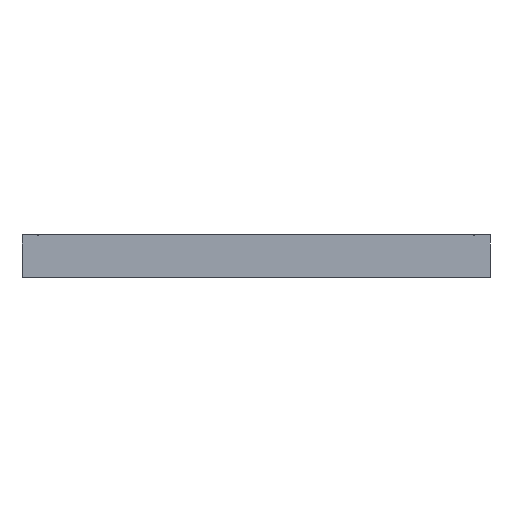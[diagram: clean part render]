
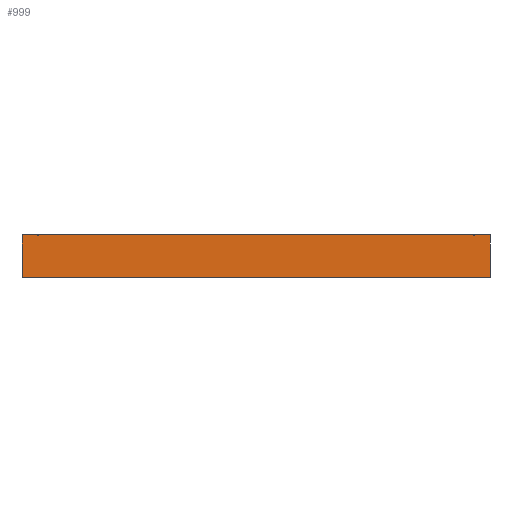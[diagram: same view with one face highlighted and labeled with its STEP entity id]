
A CAD part, top view. The second image highlights one B-rep face of the part: STEP entity #999.
In plain terms, the highlighted planar face has unit normal (0, 0, 1).
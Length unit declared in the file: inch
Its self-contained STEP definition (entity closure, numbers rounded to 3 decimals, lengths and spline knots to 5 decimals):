
#359=CARTESIAN_POINT('',(59.625,5.5,0.055));
#360=VERTEX_POINT('',#359);
#361=CARTESIAN_POINT('',(59.75,5.375,0.055));
#362=VERTEX_POINT('',#361);
#363=CARTESIAN_POINT('',(59.625,5.375,0.055));
#364=DIRECTION('',(0.0,0.0,-1.0));
#365=DIRECTION('',(0.707,0.707,0.0));
#366=AXIS2_PLACEMENT_3D('',#363,#364,#365);
#367=CIRCLE('',#366,0.125);
#368=EDGE_CURVE('',#360,#362,#367,.T.);
#410=CARTESIAN_POINT('',(-59.625,5.5,0.055));
#411=VERTEX_POINT('',#410);
#418=CARTESIAN_POINT('',(-59.625,5.5,0.055));
#419=DIRECTION('',(1.0,0.0,0.0));
#420=VECTOR('',#419,119.25);
#421=LINE('',#418,#420);
#422=EDGE_CURVE('',#411,#360,#421,.T.);
#495=CARTESIAN_POINT('',(-59.75,5.375,0.055));
#496=VERTEX_POINT('',#495);
#497=CARTESIAN_POINT('',(-59.625,5.375,0.055));
#498=DIRECTION('',(0.0,0.0,-1.0));
#499=DIRECTION('',(-0.707,0.707,0.0));
#500=AXIS2_PLACEMENT_3D('',#497,#498,#499);
#501=CIRCLE('',#500,0.125);
#502=EDGE_CURVE('',#496,#411,#501,.T.);
#522=CARTESIAN_POINT('',(-59.75,-5.414,0.055));
#523=VERTEX_POINT('',#522);
#530=CARTESIAN_POINT('',(-59.75,-5.414,0.055));
#531=DIRECTION('',(0.0,1.0,0.0));
#532=VECTOR('',#531,10.789);
#533=LINE('',#530,#532);
#534=EDGE_CURVE('',#523,#496,#533,.T.);
#775=CARTESIAN_POINT('',(-55.8385,5.25,0.055));
#776=VERTEX_POINT('',#775);
#777=CARTESIAN_POINT('',(-55.75,5.25,0.055));
#778=DIRECTION('',(0.0,0.0,-1.0));
#779=DIRECTION('',(1.0,0.0,0.0));
#780=AXIS2_PLACEMENT_3D('',#777,#778,#779);
#781=CIRCLE('',#780,0.0885);
#782=EDGE_CURVE('',#776,#776,#781,.T.);
#795=CARTESIAN_POINT('',(55.6615,5.25,0.055));
#796=VERTEX_POINT('',#795);
#797=CARTESIAN_POINT('',(55.75,5.25,0.055));
#798=DIRECTION('',(0.0,0.0,-1.0));
#799=DIRECTION('',(1.0,0.0,0.0));
#800=AXIS2_PLACEMENT_3D('',#797,#798,#799);
#801=CIRCLE('',#800,0.0885);
#802=EDGE_CURVE('',#796,#796,#801,.T.);
#864=CARTESIAN_POINT('',(59.75,-5.414,0.055));
#865=VERTEX_POINT('',#864);
#953=CARTESIAN_POINT('',(-59.75,-5.414,0.055));
#954=DIRECTION('',(1.0,0.0,0.0));
#955=VECTOR('',#954,119.5);
#956=LINE('',#953,#955);
#957=EDGE_CURVE('',#523,#865,#956,.T.);
#969=CARTESIAN_POINT('',(59.75,5.375,0.055));
#970=DIRECTION('',(0.0,-1.0,0.0));
#971=VECTOR('',#970,10.789);
#972=LINE('',#969,#971);
#973=EDGE_CURVE('',#362,#865,#972,.T.);
#980=CARTESIAN_POINT('',(0.0,0.,0.055));
#981=DIRECTION('',(0.0,0.0,1.0));
#982=DIRECTION('',(1.0,0.0,0.0));
#983=AXIS2_PLACEMENT_3D('',#980,#981,#982);
#984=PLANE('',#983);
#985=ORIENTED_EDGE('',*,*,#368,.F.);
#986=ORIENTED_EDGE('',*,*,#422,.F.);
#987=ORIENTED_EDGE('',*,*,#502,.F.);
#988=ORIENTED_EDGE('',*,*,#534,.F.);
#989=ORIENTED_EDGE('',*,*,#957,.T.);
#990=ORIENTED_EDGE('',*,*,#973,.F.);
#991=EDGE_LOOP('',(#985,#986,#987,#988,#989,#990));
#992=FACE_OUTER_BOUND('',#991,.T.);
#993=ORIENTED_EDGE('',*,*,#782,.T.);
#994=EDGE_LOOP('',(#993));
#995=FACE_BOUND('',#994,.T.);
#996=ORIENTED_EDGE('',*,*,#802,.T.);
#997=EDGE_LOOP('',(#996));
#998=FACE_BOUND('',#997,.T.);
#999=ADVANCED_FACE('',(#992,#995,#998),#984,.T.);
